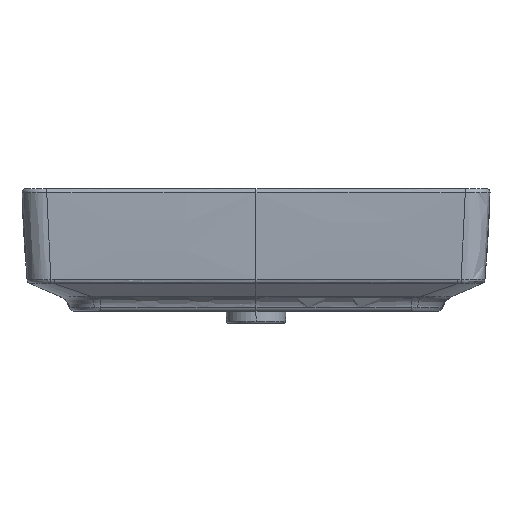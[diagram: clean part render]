
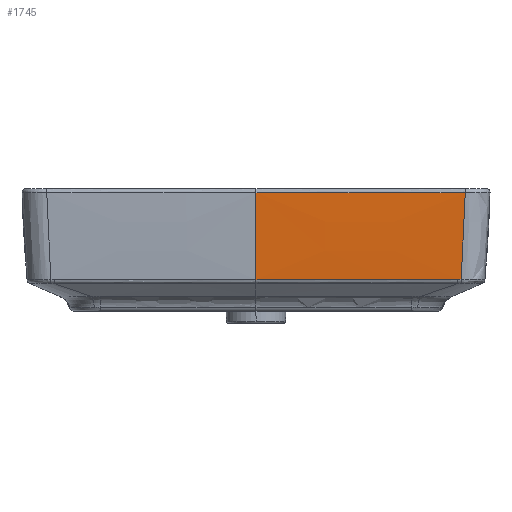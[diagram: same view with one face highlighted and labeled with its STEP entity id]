
A CAD part, front view. The second image highlights one B-rep face of the part: STEP entity #1745.
In plain terms, the highlighted free-form (B-spline) face has degree [3, 3] with [4, 4] control points.
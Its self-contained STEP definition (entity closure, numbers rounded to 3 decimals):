
#71=B_SPLINE_SURFACE_WITH_KNOTS('',3,3,((#12260,#12261,#12262,#12263),(#12264,
#12265,#12266,#12267),(#12268,#12269,#12270,#12271),(#12272,#12273,#12274,
#12275)),.UNSPECIFIED.,.F.,.F.,.F.,(4,4),(4,4),(0.,1.),(0.,1.),
 .UNSPECIFIED.);
#144=B_SPLINE_CURVE_WITH_KNOTS('',3,(#12215,#12216,#12217,#12218,#12219,
#12220,#12221,#12222,#12223,#12224,#12225,#12226,#12227,#12228,#12229,#12230,
#12231,#12232,#12233,#12234,#12235,#12236,#12237,#12238,#12239,#12240,#12241,
#12242,#12243,#12244,#12245,#12246,#12247,#12248,#12249,#12250,#12251,#12252,
#12253,#12254,#12255,#12256,#12257,#12258),.UNSPECIFIED.,.F.,.F.,(4,2,2,
2,2,2,2,2,2,2,2,2,2,2,2,2,2,2,2,2,2,4),(0.,0.08,0.142,
0.197,0.249,0.297,0.344,
0.39,0.43,0.474,0.517,0.56,
0.602,0.644,0.687,0.729,0.772,
0.816,0.862,0.91,0.962,
1.),.UNSPECIFIED.);
#145=B_SPLINE_CURVE_WITH_KNOTS('',3,(#12277,#12278,#12279,#12280),
 .UNSPECIFIED.,.F.,.F.,(4,4),(0.,1.),.UNSPECIFIED.);
#297=FACE_OUTER_BOUND('',#423,.T.);
#423=EDGE_LOOP('',(#1357,#1358,#1359,#1360,#1361));
#562=CIRCLE('',#1913,77.037);
#564=CIRCLE('',#1915,106592.17);
#585=CIRCLE('',#1937,271053.747);
#739=VERTEX_POINT('',#9973);
#740=VERTEX_POINT('',#10213);
#741=VERTEX_POINT('',#10396);
#754=VERTEX_POINT('',#12214);
#755=VERTEX_POINT('',#12276);
#933=EDGE_CURVE('',#739,#740,#562,.T.);
#935=EDGE_CURVE('',#741,#740,#564,.T.);
#961=EDGE_CURVE('',#739,#754,#144,.T.);
#963=EDGE_CURVE('',#741,#755,#145,.T.);
#964=EDGE_CURVE('',#754,#755,#585,.T.);
#1357=ORIENTED_EDGE('',*,*,#963,.F.);
#1358=ORIENTED_EDGE('',*,*,#935,.T.);
#1359=ORIENTED_EDGE('',*,*,#933,.F.);
#1360=ORIENTED_EDGE('',*,*,#961,.T.);
#1361=ORIENTED_EDGE('',*,*,#964,.T.);
#1745=ADVANCED_FACE('',(#297),#71,.T.);
#1913=AXIS2_PLACEMENT_3D('',#10214,#2200,#2201);
#1915=AXIS2_PLACEMENT_3D('',#10397,#2204,#2205);
#1937=AXIS2_PLACEMENT_3D('',#12281,#2248,#2249);
#2200=DIRECTION('center_axis',(-0.002,0.997,0.077));
#2201=DIRECTION('ref_axis',(0.057,0.077,-0.995));
#2204=DIRECTION('center_axis',(0.,-0.395,
0.919));
#2205=DIRECTION('ref_axis',(0.,-0.919,-0.395));
#2248=DIRECTION('center_axis',(0.,0.035,-0.999));
#2249=DIRECTION('ref_axis',(0.001,-0.999,-0.035));
#9973=CARTESIAN_POINT('',(241.115,-193.818,37.421));
#10213=CARTESIAN_POINT('',(236.958,-193.817,37.294));
#10214=CARTESIAN_POINT('Origin',(236.703,-199.728,114.103));
#10396=CARTESIAN_POINT('',(-0.001,-194.06,37.185));
#10397=CARTESIAN_POINT('Origin',(-1.55,97718.106,42169.102));
#12214=CARTESIAN_POINT('',(245.92,-199.878,139.478));
#12215=CARTESIAN_POINT('Ctrl Pts',(241.115,-193.818,37.421));
#12216=CARTESIAN_POINT('Ctrl Pts',(241.248,-193.972,39.399));
#12217=CARTESIAN_POINT('Ctrl Pts',(241.391,-194.138,41.557));
#12218=CARTESIAN_POINT('Ctrl Pts',(241.657,-194.447,45.634));
#12219=CARTESIAN_POINT('Ctrl Pts',(241.776,-194.586,47.49));
#12220=CARTESIAN_POINT('Ctrl Pts',(242.008,-194.858,51.162));
#12221=CARTESIAN_POINT('Ctrl Pts',(242.12,-194.99,52.963));
#12222=CARTESIAN_POINT('Ctrl Pts',(242.339,-195.25,56.552));
#12223=CARTESIAN_POINT('Ctrl Pts',(242.446,-195.377,58.333));
#12224=CARTESIAN_POINT('Ctrl Pts',(242.655,-195.625,61.851));
#12225=CARTESIAN_POINT('Ctrl Pts',(242.755,-195.745,63.584));
#12226=CARTESIAN_POINT('Ctrl Pts',(242.954,-195.983,67.052));
#12227=CARTESIAN_POINT('Ctrl Pts',(243.051,-196.101,68.787));
#12228=CARTESIAN_POINT('Ctrl Pts',(243.241,-196.331,72.234));
#12229=CARTESIAN_POINT('Ctrl Pts',(243.334,-196.444,73.944));
#12230=CARTESIAN_POINT('Ctrl Pts',(243.507,-196.655,77.202));
#12231=CARTESIAN_POINT('Ctrl Pts',(243.588,-196.754,78.747));
#12232=CARTESIAN_POINT('Ctrl Pts',(243.753,-196.958,81.977));
#12233=CARTESIAN_POINT('Ctrl Pts',(243.838,-197.063,83.664));
#12234=CARTESIAN_POINT('Ctrl Pts',(244.003,-197.269,87.022));
#12235=CARTESIAN_POINT('Ctrl Pts',(244.083,-197.37,88.693));
#12236=CARTESIAN_POINT('Ctrl Pts',(244.239,-197.567,92.018));
#12237=CARTESIAN_POINT('Ctrl Pts',(244.315,-197.663,93.67));
#12238=CARTESIAN_POINT('Ctrl Pts',(244.462,-197.852,96.951));
#12239=CARTESIAN_POINT('Ctrl Pts',(244.533,-197.943,98.578));
#12240=CARTESIAN_POINT('Ctrl Pts',(244.671,-198.122,101.811));
#12241=CARTESIAN_POINT('Ctrl Pts',(244.738,-198.21,103.416));
#12242=CARTESIAN_POINT('Ctrl Pts',(244.867,-198.38,106.602));
#12243=CARTESIAN_POINT('Ctrl Pts',(244.93,-198.463,108.184));
#12244=CARTESIAN_POINT('Ctrl Pts',(245.048,-198.622,111.275));
#12245=CARTESIAN_POINT('Ctrl Pts',(245.105,-198.698,112.785));
#12246=CARTESIAN_POINT('Ctrl Pts',(245.215,-198.848,115.823));
#12247=CARTESIAN_POINT('Ctrl Pts',(245.268,-198.922,117.349));
#12248=CARTESIAN_POINT('Ctrl Pts',(245.371,-199.066,120.369));
#12249=CARTESIAN_POINT('Ctrl Pts',(245.421,-199.135,121.863));
#12250=CARTESIAN_POINT('Ctrl Pts',(245.516,-199.271,124.847));
#12251=CARTESIAN_POINT('Ctrl Pts',(245.562,-199.337,126.335));
#12252=CARTESIAN_POINT('Ctrl Pts',(245.65,-199.465,129.275));
#12253=CARTESIAN_POINT('Ctrl Pts',(245.691,-199.527,130.726));
#12254=CARTESIAN_POINT('Ctrl Pts',(245.772,-199.649,133.663));
#12255=CARTESIAN_POINT('Ctrl Pts',(245.811,-199.709,135.139));
#12256=CARTESIAN_POINT('Ctrl Pts',(245.873,-199.805,137.56));
#12257=CARTESIAN_POINT('Ctrl Pts',(245.897,-199.843,138.539));
#12258=CARTESIAN_POINT('Ctrl Pts',(245.92,-199.878,139.478));
#12260=CARTESIAN_POINT('Ctrl Pts',(-0.001,-200.,
139.478));
#12261=CARTESIAN_POINT('Ctrl Pts',(81.97,-200.,139.478));
#12262=CARTESIAN_POINT('Ctrl Pts',(163.521,-199.96,139.478));
#12263=CARTESIAN_POINT('Ctrl Pts',(245.92,-199.878,139.478));
#12264=CARTESIAN_POINT('Ctrl Pts',(-0.001,-199.105,
105.335));
#12265=CARTESIAN_POINT('Ctrl Pts',(81.727,-199.105,105.329));
#12266=CARTESIAN_POINT('Ctrl Pts',(163.304,-198.912,105.33));
#12267=CARTESIAN_POINT('Ctrl Pts',(245.103,-198.575,105.332));
#12268=CARTESIAN_POINT('Ctrl Pts',(-0.001,-196.983,
71.216));
#12269=CARTESIAN_POINT('Ctrl Pts',(81.156,-196.982,71.201));
#12270=CARTESIAN_POINT('Ctrl Pts',(162.432,-196.789,71.203));
#12271=CARTESIAN_POINT('Ctrl Pts',(243.393,-196.451,71.208));
#12272=CARTESIAN_POINT('Ctrl Pts',(-0.001,-194.06,
37.185));
#12273=CARTESIAN_POINT('Ctrl Pts',(80.37,-194.06,37.184));
#12274=CARTESIAN_POINT('Ctrl Pts',(161.13,-193.971,37.184));
#12275=CARTESIAN_POINT('Ctrl Pts',(241.099,-193.799,37.184));
#12276=CARTESIAN_POINT('',(-0.002,-200.,139.477));
#12277=CARTESIAN_POINT('Ctrl Pts',(-0.001,-194.06,
37.185));
#12278=CARTESIAN_POINT('Ctrl Pts',(-0.001,-196.983,
71.216));
#12279=CARTESIAN_POINT('Ctrl Pts',(-0.001,-199.105,
105.334));
#12280=CARTESIAN_POINT('Ctrl Pts',(-0.001,-200.,
139.477));
#12281=CARTESIAN_POINT('Origin',(-10.533,270683.325,9749.79));
